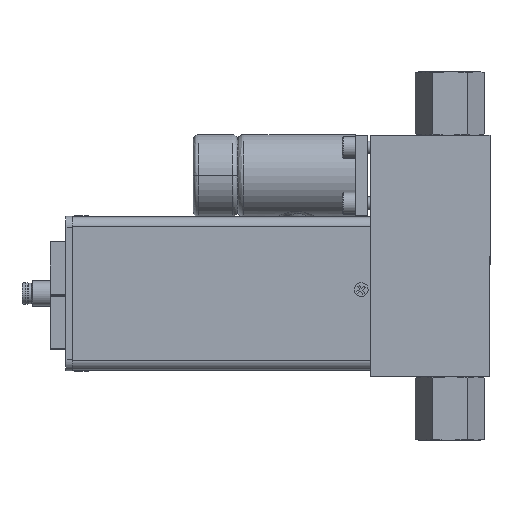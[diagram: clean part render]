
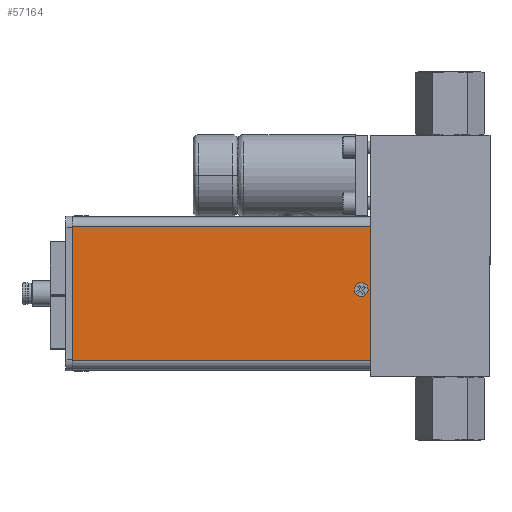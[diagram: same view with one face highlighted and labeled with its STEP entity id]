
A CAD part, front view. The second image highlights one B-rep face of the part: STEP entity #57164.
In plain terms, the highlighted planar face has unit normal (0, -1, 0).
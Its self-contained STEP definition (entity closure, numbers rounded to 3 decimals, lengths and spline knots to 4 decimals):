
#2535 = EDGE_CURVE ( 'NONE', #26555, #3598, #23350, .T. ) ;
#3596 = VERTEX_POINT ( 'NONE', #24435 ) ;
#3598 = VERTEX_POINT ( 'NONE', #24071 ) ;
#4549 = CIRCLE ( 'NONE', #14029, 0.063 ) ;
#4793 = VERTEX_POINT ( 'NONE', #23723 ) ;
#5729 = PLANE ( 'NONE',  #60182 ) ;
#7363 = LINE ( 'NONE', #68832, #73634 ) ;
#7750 = VERTEX_POINT ( 'NONE', #18943 ) ;
#11305 = DIRECTION ( 'NONE',  ( 0., -1., 0. ) ) ;
#12674 = CARTESIAN_POINT ( 'NONE',  ( 1.2965, 0.8378, -1.47 ) ) ;
#13408 = DIRECTION ( 'NONE',  ( 0., 0., 1. ) ) ;
#14029 = AXIS2_PLACEMENT_3D ( 'NONE', #45311, #34504, #40813 ) ;
#16220 = ORIENTED_EDGE ( 'NONE', *, *, #2535, .T. ) ;
#16542 = VECTOR ( 'NONE', #30280, 39.3701 ) ;
#18478 = EDGE_LOOP ( 'NONE', ( #16220, #26096 ) ) ;
#18943 = CARTESIAN_POINT ( 'NONE',  ( -2.418, 0.8378, -0.642 ) ) ;
#23350 = CIRCLE ( 'NONE', #64969, 0.063 ) ;
#23723 = CARTESIAN_POINT ( 'NONE',  ( 1.2965, 0.8378, -0.642 ) ) ;
#24071 = CARTESIAN_POINT ( 'NONE',  ( 1.2415, 0.8378, -1.4228 ) ) ;
#24426 = VERTEX_POINT ( 'NONE', #48267 ) ;
#24435 = CARTESIAN_POINT ( 'NONE',  ( 1.2965, 0.8378, -2.298 ) ) ;
#25464 = CARTESIAN_POINT ( 'NONE',  ( 1.1155, 0.8378, -1.4228 ) ) ;
#26096 = ORIENTED_EDGE ( 'NONE', *, *, #46874, .T. ) ;
#26555 = VERTEX_POINT ( 'NONE', #25464 ) ;
#27643 = ORIENTED_EDGE ( 'NONE', *, *, #49544, .T. ) ;
#28307 = ORIENTED_EDGE ( 'NONE', *, *, #34811, .T. ) ;
#28442 = FACE_BOUND ( 'NONE', #18478, .T. ) ;
#29700 = DIRECTION ( 'NONE',  ( 0., 0., -1. ) ) ;
#29909 = LINE ( 'NONE', #52597, #16542 ) ;
#30280 = DIRECTION ( 'NONE',  ( -1., 0., 0. ) ) ;
#34504 = DIRECTION ( 'NONE',  ( 0., 1., 0. ) ) ;
#34811 = EDGE_CURVE ( 'NONE', #7750, #24426, #7363, .T. ) ;
#35964 = DIRECTION ( 'NONE',  ( 1., 0., 0. ) ) ;
#39400 = ORIENTED_EDGE ( 'NONE', *, *, #48347, .T. ) ;
#39597 = DIRECTION ( 'NONE',  ( 1., 0., 0. ) ) ;
#40813 = DIRECTION ( 'NONE',  ( -1., 0., 0. ) ) ;
#41846 = EDGE_CURVE ( 'NONE', #3596, #4793, #53581, .T. ) ;
#42842 = EDGE_LOOP ( 'NONE', ( #28307, #27643, #60050, #39400 ) ) ;
#45206 = VECTOR ( 'NONE', #35964, 39.3701 ) ;
#45311 = CARTESIAN_POINT ( 'NONE',  ( 1.1785, 0.8378, -1.4228 ) ) ;
#46260 = CARTESIAN_POINT ( 'NONE',  ( 1.2965, 0.8378, -1.47 ) ) ;
#46874 = EDGE_CURVE ( 'NONE', #3598, #26555, #4549, .T. ) ;
#48267 = CARTESIAN_POINT ( 'NONE',  ( -2.418, 0.8378, -2.298 ) ) ;
#48347 = EDGE_CURVE ( 'NONE', #4793, #7750, #29909, .T. ) ;
#49544 = EDGE_CURVE ( 'NONE', #24426, #3596, #51618, .T. ) ;
#50475 = CARTESIAN_POINT ( 'NONE',  ( 1.1785, 0.8378, -1.4228 ) ) ;
#51618 = LINE ( 'NONE', #68782, #45206 ) ;
#52597 = CARTESIAN_POINT ( 'NONE',  ( 1.2965, 0.8378, -0.642 ) ) ;
#53581 = LINE ( 'NONE', #12674, #58635 ) ;
#55996 = FACE_OUTER_BOUND ( 'NONE', #42842, .T. ) ;
#57164 = ADVANCED_FACE ( 'NONE', ( #55996, #28442 ), #5729, .T. ) ;
#58635 = VECTOR ( 'NONE', #13408, 39.3701 ) ;
#60050 = ORIENTED_EDGE ( 'NONE', *, *, #41846, .T. ) ;
#60182 = AXIS2_PLACEMENT_3D ( 'NONE', #46260, #11305, #39597 ) ;
#63114 = DIRECTION ( 'NONE',  ( -1., 0., 0. ) ) ;
#64969 = AXIS2_PLACEMENT_3D ( 'NONE', #50475, #67274, #63114 ) ;
#67274 = DIRECTION ( 'NONE',  ( 0., 1., 0. ) ) ;
#68782 = CARTESIAN_POINT ( 'NONE',  ( 1.2965, 0.8378, -2.298 ) ) ;
#68832 = CARTESIAN_POINT ( 'NONE',  ( -2.418, 0.8378, -1.47 ) ) ;
#73634 = VECTOR ( 'NONE', #29700, 39.3701 ) ;
